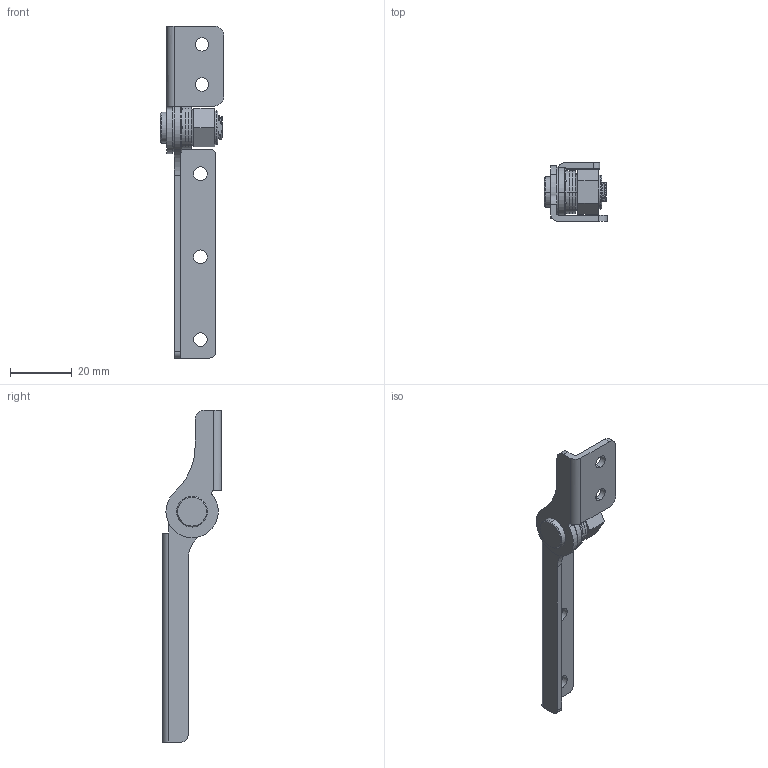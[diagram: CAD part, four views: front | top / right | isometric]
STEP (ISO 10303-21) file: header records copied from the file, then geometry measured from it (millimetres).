
FILE_DESCRIPTION (( 'STEP AP203' ), '1' );
FILE_NAME ('XG11-047-3R.STEP', '2025-07-26T07:55:38', ( '微软用户' ), ( '微软中国' ), 'SwSTEP 2.0', 'SolidWorks 2024', '' );
FILE_SCHEMA (( 'CONFIG_CONTROL_DESIGN' ));
Length unit declared in the file: millimetre
Products named in the file (1): XG11-047-3R
Bounding box: 20.5 x 19.06 x 107.81 mm (x, y, z)
Volume: 6470.2 mm3; surface area: 8366 mm2
Topology: 9 solids, 9 shells, 208 faces, 542 edges, 355 vertices
Faces by surface type: cylinder 85, plane 75, bspline 33, cone 13, torus 2
Entity records: 10950 total; most frequent: CARTESIAN_POINT 5915, ORIENTED_EDGE 1084, DIRECTION 935, EDGE_CURVE 542, VERTEX_POINT 355, AXIS2_PLACEMENT_3D 345, LINE 245, VECTOR 245
